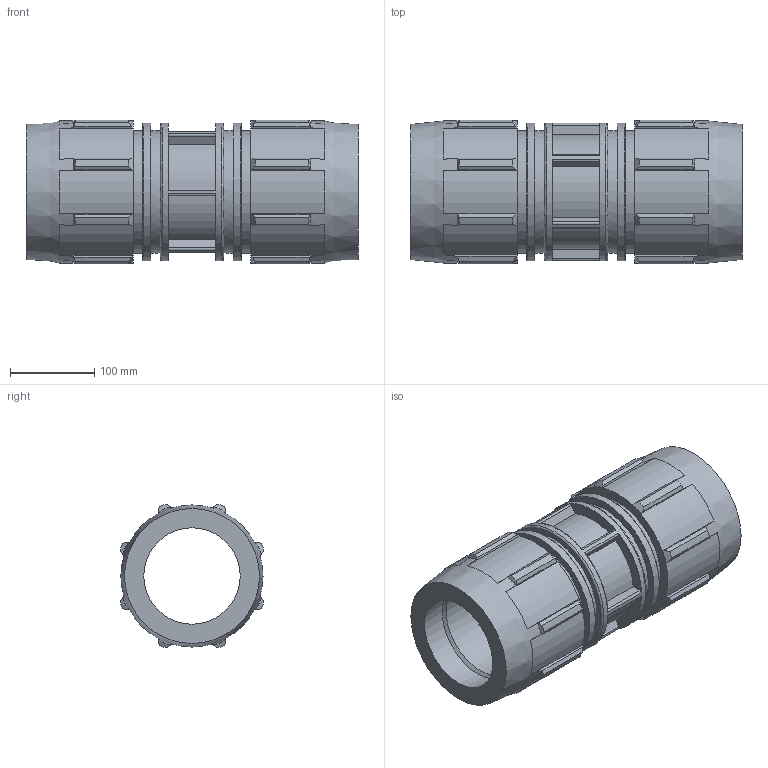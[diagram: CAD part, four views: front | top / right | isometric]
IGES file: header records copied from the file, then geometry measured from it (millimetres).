
Global section: file name: 0761M0040.ipt; native system: Autodesk Inventor 2019; preprocessor: unknown; author: KIM; date: 20210826.124853; units: inch
Bounding box: 392.94 x 170.16 x 170.16 mm (x, y, z)
Volume: 3959021.4 mm3; surface area: 427896.5 mm2
Topology: 1 solids, 1 shells, 214 faces, 603 edges, 406 vertices
Faces by surface type: plane 100, cylinder 57, cone 34, revolution 23
Full cylindrical faces by diameter (mm): 144.678 x4, 162.763 x3
